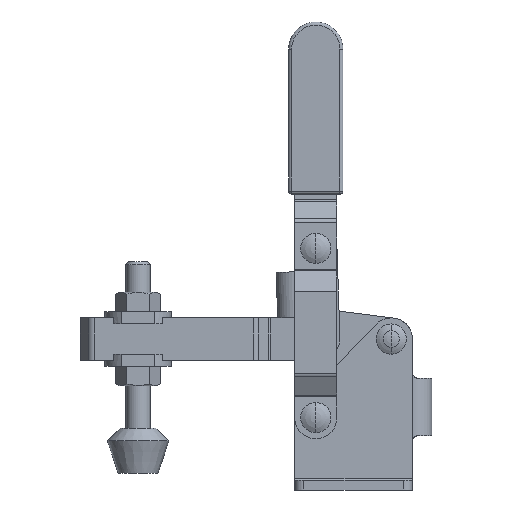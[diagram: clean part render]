
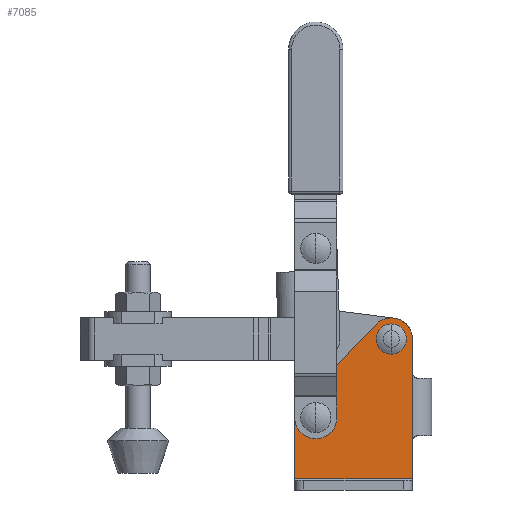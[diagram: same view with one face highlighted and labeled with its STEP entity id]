
A CAD part, front view. The second image highlights one B-rep face of the part: STEP entity #7085.
In plain terms, the highlighted planar face has unit normal (0, -1, 0).
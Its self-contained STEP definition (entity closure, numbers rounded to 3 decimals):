
#5995=CARTESIAN_POINT('Cartesian Point',(90.873,-6.4,33.411)) ;
#5998=CARTESIAN_POINT('Line Origine',(90.873,-6.4,84.581)) ;
#6002=CARTESIAN_POINT('Cartesian Point',(90.873,-6.4,10.411)) ;
#6710=CARTESIAN_POINT('Cartesian Point',(90.873,-6.4,-1.889)) ;
#6713=CARTESIAN_POINT('Line Origine',(40.607,-6.4,-1.889)) ;
#6717=CARTESIAN_POINT('Cartesian Point',(51.873,-6.4,-1.889)) ;
#7016=CARTESIAN_POINT('Axis2P3D Location',(-69.393,-6.4,37.411)) ;
#7022=CARTESIAN_POINT('Control Point',(90.873,-6.4,-1.889)) ;
#7023=CARTESIAN_POINT('Control Point',(90.873,-6.4,10.411)) ;
#7025=CARTESIAN_POINT('Line Origine',(90.873,-6.4,38.911)) ;
#7029=CARTESIAN_POINT('Cartesian Point',(90.873,-6.4,44.411)) ;
#7033=CARTESIAN_POINT('Control Point',(90.873,-6.4,44.411)) ;
#7034=CARTESIAN_POINT('Control Point',(90.873,-6.4,45.923)) ;
#7035=CARTESIAN_POINT('Control Point',(90.514,-6.4,47.435)) ;
#7036=CARTESIAN_POINT('Control Point',(89.796,-6.4,48.852)) ;
#7037=CARTESIAN_POINT('Control Point',(88.746,-6.4,50.079)) ;
#7038=CARTESIAN_POINT('Control Point',(87.422,-6.4,51.032)) ;
#7039=CARTESIAN_POINT('Control Point',(85.904,-6.4,51.643)) ;
#7040=CARTESIAN_POINT('Control Point',(84.29,-6.4,51.875)) ;
#7041=CARTESIAN_POINT('Control Point',(82.682,-6.4,51.717)) ;
#7042=CARTESIAN_POINT('Control Point',(81.182,-6.4,51.194)) ;
#7043=CARTESIAN_POINT('Control Point',(79.876,-6.4,50.353)) ;
#7044=CARTESIAN_POINT('Control Point',(78.828,-6.4,49.263)) ;
#7045=CARTESIAN_POINT('Cartesian Point',(78.828,-6.4,49.263)) ;
#7048=CARTESIAN_POINT('Line Origine',(66.328,-6.4,36.263)) ;
#7052=CARTESIAN_POINT('Cartesian Point',(53.828,-6.4,23.263)) ;
#7056=CARTESIAN_POINT('Control Point',(53.828,-6.4,23.263)) ;
#7057=CARTESIAN_POINT('Control Point',(53.49,-6.4,22.912)) ;
#7058=CARTESIAN_POINT('Control Point',(53.179,-6.4,22.534)) ;
#7059=CARTESIAN_POINT('Control Point',(52.897,-6.4,22.134)) ;
#7060=CARTESIAN_POINT('Control Point',(52.647,-6.4,21.712)) ;
#7061=CARTESIAN_POINT('Control Point',(52.429,-6.4,21.272)) ;
#7062=CARTESIAN_POINT('Control Point',(52.245,-6.4,20.816)) ;
#7063=CARTESIAN_POINT('Control Point',(52.097,-6.4,20.348)) ;
#7064=CARTESIAN_POINT('Control Point',(51.985,-6.4,19.87)) ;
#7065=CARTESIAN_POINT('Control Point',(51.911,-6.4,19.386)) ;
#7066=CARTESIAN_POINT('Control Point',(51.873,-6.4,18.898)) ;
#7067=CARTESIAN_POINT('Control Point',(51.873,-6.4,18.411)) ;
#7068=CARTESIAN_POINT('Cartesian Point',(51.873,-6.4,18.411)) ;
#7072=CARTESIAN_POINT('Control Point',(51.873,-6.4,-1.889)) ;
#7073=CARTESIAN_POINT('Control Point',(51.873,-6.4,18.411)) ;
#5999=DIRECTION('Vector Direction',(0.,0.,1.)) ;
#6714=DIRECTION('Vector Direction',(1.,0.,0.)) ;
#7017=DIRECTION('Axis2P3D Direction',(0.,-1.,0.)) ;
#7018=DIRECTION('Axis2P3D XDirection',(-1.,0.,0.)) ;
#7026=DIRECTION('Vector Direction',(0.,0.,1.)) ;
#7049=DIRECTION('Vector Direction',(0.693,0.,0.721)) ;
#7019=AXIS2_PLACEMENT_3D('Plane Axis2P3D',#7016,#7017,#7018) ;
#7076=ORIENTED_EDGE('Oriented Edge',*,*,#6719,.T.) ;
#7077=ORIENTED_EDGE('Oriented Edge',*,*,#7024,.T.) ;
#7078=ORIENTED_EDGE('Oriented Edge',*,*,#6004,.T.) ;
#7079=ORIENTED_EDGE('Oriented Edge',*,*,#7031,.T.) ;
#7080=ORIENTED_EDGE('Oriented Edge',*,*,#7047,.T.) ;
#7081=ORIENTED_EDGE('Oriented Edge',*,*,#7054,.F.) ;
#7082=ORIENTED_EDGE('Oriented Edge',*,*,#7070,.T.) ;
#7083=ORIENTED_EDGE('Oriented Edge',*,*,#7074,.F.) ;
#6000=VECTOR('Line Direction',#5999,1.) ;
#6715=VECTOR('Line Direction',#6714,1.) ;
#7027=VECTOR('Line Direction',#7026,1.) ;
#7050=VECTOR('Line Direction',#7049,1.) ;
#7085=ADVANCED_FACE('',(#7084),#7020,.T.) ;
#7021=B_SPLINE_CURVE_WITH_KNOTS('BSpline Curve',1,(#7022,#7023),.UNSPECIFIED.,.F.,.U.,(2,2),(0.,12.3),.UNSPECIFIED.) ;
#7032=B_SPLINE_CURVE_WITH_KNOTS('BSpline Curve',11,(#7033,#7034,#7035,#7036,#7037,#7038,#7039,#7040,#7041,#7042,#7043,#7044),.UNSPECIFIED.,.F.,.U.,(12,12),(0.,17.438),.UNSPECIFIED.) ;
#7055=B_SPLINE_CURVE_WITH_KNOTS('BSpline Curve',11,(#7056,#7057,#7058,#7059,#7060,#7061,#7062,#7063,#7064,#7065,#7066,#7067),.UNSPECIFIED.,.F.,.U.,(12,12),(0.,5.387),.UNSPECIFIED.) ;
#7071=B_SPLINE_CURVE_WITH_KNOTS('BSpline Curve',1,(#7072,#7073),.UNSPECIFIED.,.F.,.U.,(2,2),(0.,20.3),.UNSPECIFIED.) ;
#6004=EDGE_CURVE('',#6003,#5996,#6001,.T.) ;
#6719=EDGE_CURVE('',#6718,#6711,#6716,.T.) ;
#7024=EDGE_CURVE('',#6711,#6003,#7021,.T.) ;
#7031=EDGE_CURVE('',#5996,#7030,#7028,.T.) ;
#7047=EDGE_CURVE('',#7030,#7046,#7032,.T.) ;
#7054=EDGE_CURVE('',#7053,#7046,#7051,.T.) ;
#7070=EDGE_CURVE('',#7053,#7069,#7055,.T.) ;
#7074=EDGE_CURVE('',#6718,#7069,#7071,.T.) ;
#7075=EDGE_LOOP('Oriented Loop',(#7076,#7077,#7078,#7079,#7080,#7081,#7082,#7083)) ;
#7084=FACE_OUTER_BOUND('Face Bound',#7075,.T.) ;
#6001=LINE('Line',#5998,#6000) ;
#6716=LINE('Line',#6713,#6715) ;
#7028=LINE('Line',#7025,#7027) ;
#7051=LINE('Line',#7048,#7050) ;
#7020=PLANE('Plane',#7019) ;
#5996=VERTEX_POINT('Vertex Point',#5995) ;
#6003=VERTEX_POINT('Vertex Point',#6002) ;
#6711=VERTEX_POINT('Vertex Point',#6710) ;
#6718=VERTEX_POINT('Vertex Point',#6717) ;
#7030=VERTEX_POINT('Vertex Point',#7029) ;
#7046=VERTEX_POINT('Vertex Point',#7045) ;
#7053=VERTEX_POINT('Vertex Point',#7052) ;
#7069=VERTEX_POINT('Vertex Point',#7068) ;
